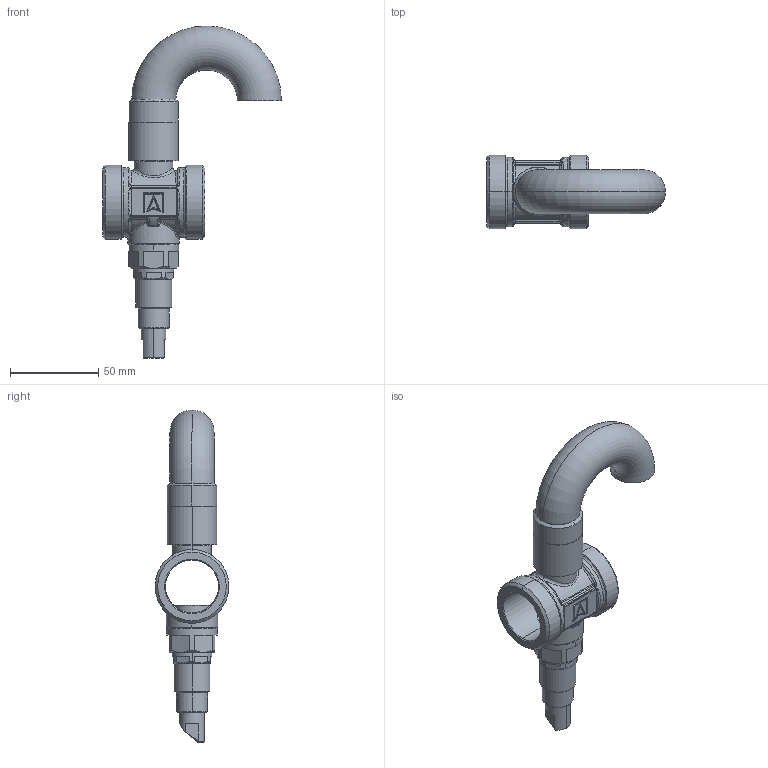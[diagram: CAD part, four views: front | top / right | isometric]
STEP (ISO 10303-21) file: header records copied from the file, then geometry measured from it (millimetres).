
FILE_DESCRIPTION (( 'STEP AP214' ), '1' );
FILE_NAME ('AAV334_Zestaw_dwóch_zaworów_antyzamro¿eniowych_1730034_1_3D_AFRISO.STEP', '2025-12-03T12:48:56', ( '' ), ( '' ), 'SwSTEP 2.0', 'SolidWorks 2024', '' );
FILE_SCHEMA (( 'AUTOMOTIVE_DESIGN' ));
Length unit declared in the file: millimetre
Products named in the file (10): 23558; AAV_pipe; AAV300_nowa_generacja; 23490.S1; 23492; 23493; AAV100_to_pipe_conncection; 23487; AAV334_Zestaw_dwóch_zaworów_antyzamrożeniowych_1730034_1_3D_AFRISO; 41287
Assembly tree (9 placements, depth 3):
  AAV334_Zestaw_dwóch_zaworów_antyzamrożeniowych_1730034_1_3D_AFRISO
    AAV_pipe
    AAV100_to_pipe_conncection
    AAV300_nowa_generacja
      41287
      23487
      23490.S1
      23558
      23492
      23493
Bounding box: 101.5 x 41.91 x 188.4 mm (x, y, z)
Volume: 65069.7 mm3; surface area: 55287.5 mm2
Topology: 8 solids, 8 shells, 645 faces, 1470 edges, 857 vertices
Faces by surface type: cylinder 199, plane 144, cone 124, torus 74, bspline 70, sphere 34
Entity records: 28481 total; most frequent: CARTESIAN_POINT 8315, DIRECTION 3133, ORIENTED_EDGE 2912, EDGE_CURVE 1456, AXIS2_PLACEMENT_3D 1329, VERTEX_POINT 855, CIRCLE 741, EDGE_LOOP 693
